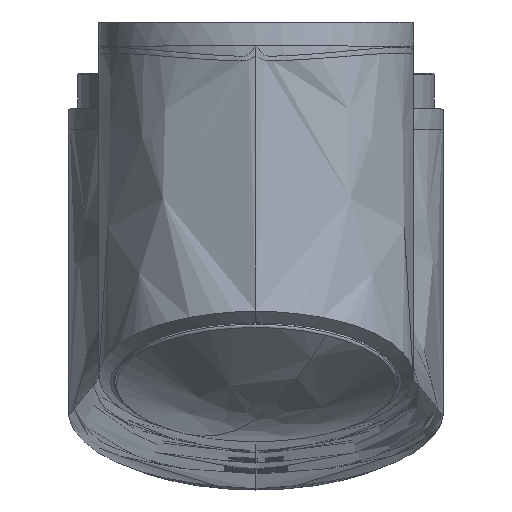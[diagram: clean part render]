
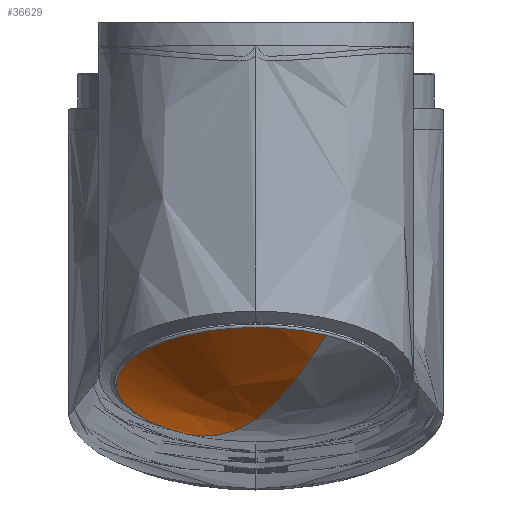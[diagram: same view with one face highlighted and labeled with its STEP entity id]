
A CAD part, top view. The second image highlights one B-rep face of the part: STEP entity #36629.
In plain terms, the highlighted free-form (B-spline) face has degree [2, 3] with [3, 4] control points.
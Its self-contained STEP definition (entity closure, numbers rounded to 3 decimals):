
#39 = CARTESIAN_POINT ( 'NONE',  ( 195.305, -237.797, 1220.138 ) ) ;
#404 = CARTESIAN_POINT ( 'NONE',  ( 180.007, -248.574, 1195.931 ) ) ;
#778 = CARTESIAN_POINT ( 'NONE',  ( 111.714, -246.907, 1199.676 ) ) ;
#2245 = VERTEX_POINT ( 'NONE', #50826 ) ;
#7530 = CARTESIAN_POINT ( 'NONE',  ( 180.007, -248.574, 1195.931 ) ) ;
#8995 = CARTESIAN_POINT ( 'NONE',  ( 164.708, -259.352, 1171.725 ) ) ;
#11221 = CARTESIAN_POINT ( 'NONE',  ( 180.007, -231.871, 1188.495 ) ) ;
#12051 = CARTESIAN_POINT ( 'NONE',  ( 142.31, -225.352, 1248.089 ) ) ;
#13167 = CARTESIAN_POINT ( 'NONE',  ( 213.346, -208.384, 1241.247 ) ) ;
#16860 = DIRECTION ( 'NONE',  ( -0.866, 0.203, 0.457 ) ) ;
#17055 = VERTEX_POINT ( 'NONE', #48800 ) ;
#20652 = EDGE_LOOP ( 'NONE', ( #42647, #41756, #48288, #52632 ) ) ;
#21841 = DIRECTION ( 'NONE',  ( 0., -0.914, 0.407 ) ) ;
#23714 = CARTESIAN_POINT ( 'NONE',  ( 31.178, -228.238, 1196.655 ) ) ;
#27881 = CARTESIAN_POINT ( 'NONE',  ( 97.856, -181.263, 1302.16 ) ) ;
#28374 = EDGE_CURVE ( 'NONE', #2245, #63321, #38281, .T. ) ;
#28482 = EDGE_CURVE ( 'NONE', #2245, #17055, #32027, .T. ) ;
#29933 = CIRCLE ( 'NONE', #40768, 66.678 ) ;
#32000 = CARTESIAN_POINT ( 'NONE',  ( 213.346, -208.384, 1241.247 ) ) ;
#32027 = B_SPLINE_CURVE_WITH_KNOTS ( 'NONE', 2,
 ( #7530, #8995, #66135 ),
 .UNSPECIFIED., .F., .F.,
 ( 3, 3 ),
 ( 0., 0.956 ),
 .UNSPECIFIED. ) ;
#34612 = DIRECTION ( 'NONE',  ( -0.866, 0.203, 0.457 ) ) ;
#35009 = CARTESIAN_POINT ( 'NONE',  ( 146.668, -255.358, 1135.742 ) ) ;
#36130 = CARTESIAN_POINT ( 'NONE',  ( 180.007, -248.574, 1195.931 ) ) ;
#36390 = CARTESIAN_POINT ( 'NONE',  ( 122.262, -218.311, 1218.951 ) ) ;
#36629 = ADVANCED_FACE ( 'NONE', ( #63546 ), #46525, .F. ) ;
#38281 = B_SPLINE_CURVE_WITH_KNOTS ( 'NONE', 2,
 ( #36130, #72136, #13167 ),
 .UNSPECIFIED., .F., .F.,
 ( 3, 3 ),
 ( 0., 0.956 ),
 .UNSPECIFIED. ) ;
#38406 = CIRCLE ( 'NONE', #50420, 66.678 ) ;
#40639 = CARTESIAN_POINT ( 'NONE',  ( 180.007, -248.574, 1195.931 ) ) ;
#40730 = EDGE_CURVE ( 'NONE', #63321, #67611, #29933, .T. ) ;
#40768 = AXIS2_PLACEMENT_3D ( 'NONE', #11221, #74355, #16860 ) ;
#41756 = ORIENTED_EDGE ( 'NONE', *, *, #28374, .T. ) ;
#42647 = ORIENTED_EDGE ( 'NONE', *, *, #28482, .F. ) ;
#45137 = CARTESIAN_POINT ( 'NONE',  ( 180.007, -231.871, 1188.495 ) ) ;
#45896 = CARTESIAN_POINT ( 'NONE',  ( 164.708, -259.352, 1171.725 ) ) ;
#46525 =( BOUNDED_SURFACE ( )  B_SPLINE_SURFACE ( 2, 3, ( 
 ( #56428, #40639, #404, #62810 ),
 ( #45896, #778, #12051, #39 ),
 ( #35009, #23714, #27881, #73714 ) ),
 .UNSPECIFIED., .F., .F., .T. ) 
 B_SPLINE_SURFACE_WITH_KNOTS ( ( 3, 3 ),
 ( 4, 4 ),
 ( 0., 0.956 ),
 ( 0., 1. ),
 .UNSPECIFIED. ) 
 GEOMETRIC_REPRESENTATION_ITEM ( )  RATIONAL_B_SPLINE_SURFACE ( (
 ( 1., 0.333, 0.333, 1.),
 ( 1., 0.333, 0.333, 1.),
 ( 1., 0.333, 0.333, 1.) ) ) 
 REPRESENTATION_ITEM ( '' )  SURFACE ( )  );
#48288 = ORIENTED_EDGE ( 'NONE', *, *, #40730, .T. ) ;
#48800 = CARTESIAN_POINT ( 'NONE',  ( 146.668, -255.358, 1135.742 ) ) ;
#49422 = EDGE_CURVE ( 'NONE', #67611, #17055, #38406, .T. ) ;
#50420 = AXIS2_PLACEMENT_3D ( 'NONE', #45137, #21841, #34612 ) ;
#50826 = CARTESIAN_POINT ( 'NONE',  ( 180.007, -248.574, 1195.931 ) ) ;
#52632 = ORIENTED_EDGE ( 'NONE', *, *, #49422, .T. ) ;
#56428 = CARTESIAN_POINT ( 'NONE',  ( 180.007, -248.574, 1195.931 ) ) ;
#62810 = CARTESIAN_POINT ( 'NONE',  ( 180.007, -248.574, 1195.931 ) ) ;
#63321 = VERTEX_POINT ( 'NONE', #32000 ) ;
#63546 = FACE_OUTER_BOUND ( 'NONE', #20652, .T. ) ;
#66135 = CARTESIAN_POINT ( 'NONE',  ( 146.668, -255.358, 1135.742 ) ) ;
#67611 = VERTEX_POINT ( 'NONE', #36390 ) ;
#72136 = CARTESIAN_POINT ( 'NONE',  ( 195.305, -237.797, 1220.138 ) ) ;
#73714 = CARTESIAN_POINT ( 'NONE',  ( 213.346, -208.384, 1241.247 ) ) ;
#74355 = DIRECTION ( 'NONE',  ( 0., -0.914, 0.407 ) ) ;
